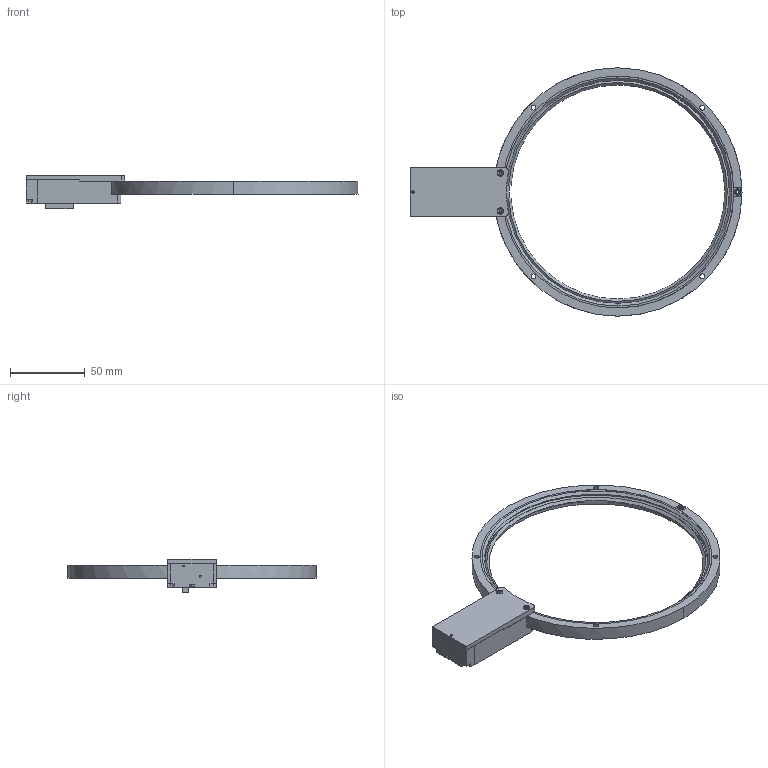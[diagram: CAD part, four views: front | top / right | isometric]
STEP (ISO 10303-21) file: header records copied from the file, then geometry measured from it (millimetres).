
FILE_DESCRIPTION (( 'STEP AP214' ), '1' );
FILE_NAME ('I0024-1001-00-A.STEP', '2025-06-27T05:57:17', ( '' ), ( '' ), 'SwSTEP 2.0', 'SolidWorks 2022', '' );
FILE_SCHEMA (( 'AUTOMOTIVE_DESIGN' ));
Length unit declared in the file: millimetre
Products named in the file (1): I0024-1001-00-A
Bounding box: 222.6 x 166.5 x 22.65 mm (x, y, z)
Surface area: 40902.7 mm2 (no closed solid volume)
Topology: 0 solids, 13 shells, 170 faces, 552 edges, 378 vertices
Faces by surface type: plane 67, cylinder 61, cone 29, torus 8, bspline 5
Entity records: 6890 total; most frequent: CARTESIAN_POINT 1328, DIRECTION 1052, ORIENTED_EDGE 884, EDGE_CURVE 552, AXIS2_PLACEMENT_3D 390, VERTEX_POINT 378, LINE 272, VECTOR 272
